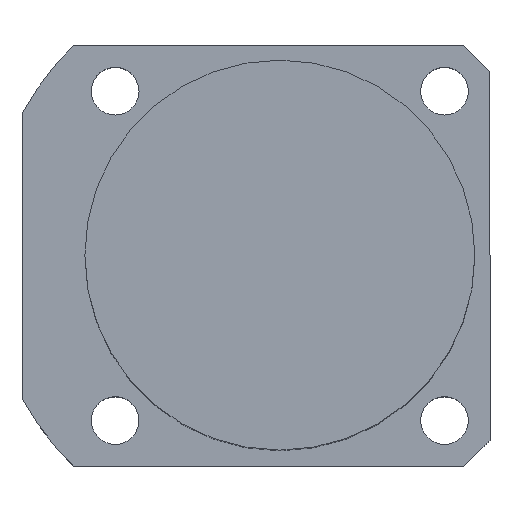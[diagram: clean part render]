
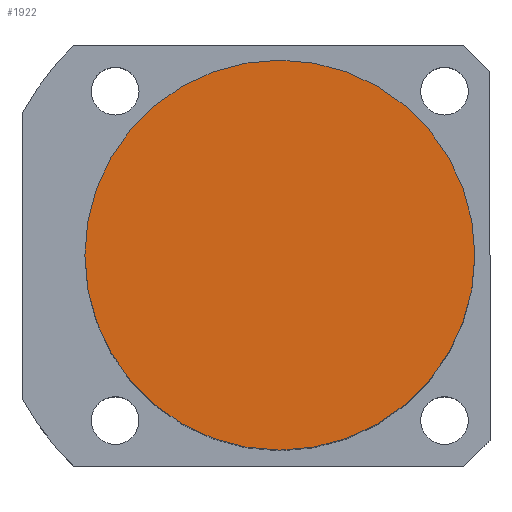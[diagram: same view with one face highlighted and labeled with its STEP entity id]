
A CAD part, top view. The second image highlights one B-rep face of the part: STEP entity #1922.
In plain terms, the highlighted planar face has unit normal (0, 0, 1).
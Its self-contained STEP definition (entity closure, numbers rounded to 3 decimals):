
#34 = AXIS2_PLACEMENT_3D ( 'NONE', #1752, #1759, #851 ) ;
#141 = ORIENTED_EDGE ( 'NONE', *, *, #721, .T. ) ;
#309 = CARTESIAN_POINT ( 'NONE',  ( 45., 0., 114.5 ) ) ;
#351 = CIRCLE ( 'NONE', #34, 45. ) ;
#541 = PLANE ( 'NONE',  #1313 ) ;
#680 = CARTESIAN_POINT ( 'NONE',  ( -45., 0., 114.5 ) ) ;
#721 = EDGE_CURVE ( 'NONE', #1569, #1333, #1630, .T. ) ;
#816 = DIRECTION ( 'NONE',  ( 0., 0., 1. ) ) ;
#821 = EDGE_CURVE ( 'NONE', #1333, #1569, #351, .T. ) ;
#837 = DIRECTION ( 'NONE',  ( 0., 0., 1. ) ) ;
#849 = EDGE_LOOP ( 'NONE', ( #1616, #141 ) ) ;
#851 = DIRECTION ( 'NONE',  ( 1., 0., 0. ) ) ;
#1132 = CARTESIAN_POINT ( 'NONE',  ( 0., 0., 114.5 ) ) ;
#1313 = AXIS2_PLACEMENT_3D ( 'NONE', #1132, #837, #1588 ) ;
#1333 = VERTEX_POINT ( 'NONE', #680 ) ;
#1399 = AXIS2_PLACEMENT_3D ( 'NONE', #1742, #816, #1732 ) ;
#1569 = VERTEX_POINT ( 'NONE', #309 ) ;
#1588 = DIRECTION ( 'NONE',  ( 1., 0., 0. ) ) ;
#1616 = ORIENTED_EDGE ( 'NONE', *, *, #821, .T. ) ;
#1630 = CIRCLE ( 'NONE', #1399, 45. ) ;
#1719 = FACE_OUTER_BOUND ( 'NONE', #849, .T. ) ;
#1732 = DIRECTION ( 'NONE',  ( 1., 0., 0. ) ) ;
#1742 = CARTESIAN_POINT ( 'NONE',  ( 0., 0., 114.5 ) ) ;
#1752 = CARTESIAN_POINT ( 'NONE',  ( 0., 0., 114.5 ) ) ;
#1759 = DIRECTION ( 'NONE',  ( 0., 0., 1. ) ) ;
#1922 = ADVANCED_FACE ( 'NONE', ( #1719 ), #541, .T. ) ;
